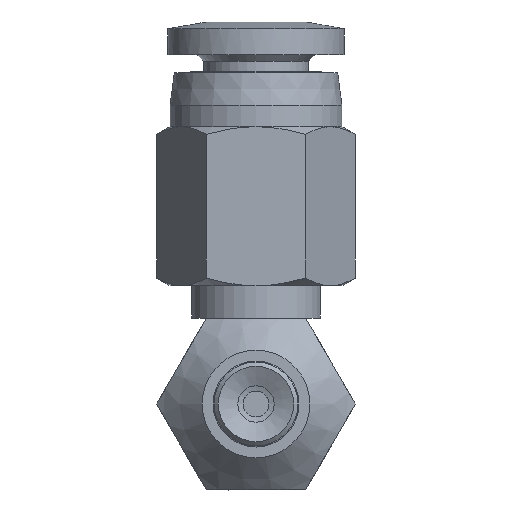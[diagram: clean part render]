
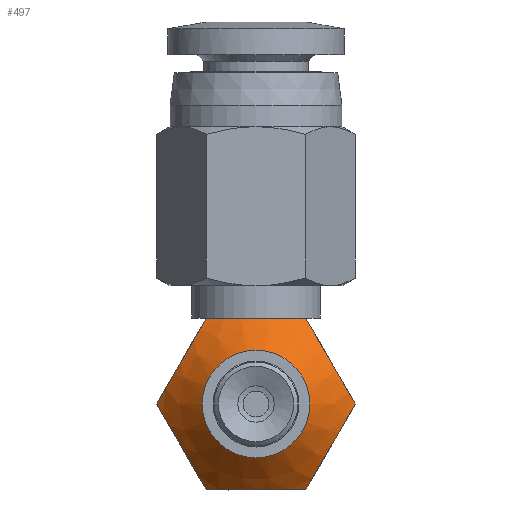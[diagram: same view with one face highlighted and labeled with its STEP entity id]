
A CAD part, front view. The second image highlights one B-rep face of the part: STEP entity #497.
In plain terms, the highlighted conical face has half-angle 45 degrees and reference radius 2.5 mm.
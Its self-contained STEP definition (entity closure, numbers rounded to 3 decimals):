
#497=ADVANCED_FACE('',(#709,#710),#711,.T.);
#709=FACE_BOUND('',#1091,.T.);
#710=FACE_OUTER_BOUND('',#1092,.T.);
#711=CONICAL_SURFACE('',#1093,2.5,0.785);
#1091=EDGE_LOOP('',(#1897));
#1092=EDGE_LOOP('',(#1898,#1899,#1900,#1901,#1902,#1903));
#1093=AXIS2_PLACEMENT_3D('',#1904,#1905,#1906);
#1897=ORIENTED_EDGE('',*,*,#2668,.F.);
#1898=ORIENTED_EDGE('',*,*,#2669,.F.);
#1899=ORIENTED_EDGE('',*,*,#2670,.F.);
#1900=ORIENTED_EDGE('',*,*,#2671,.F.);
#1901=ORIENTED_EDGE('',*,*,#2663,.F.);
#1902=ORIENTED_EDGE('',*,*,#2672,.F.);
#1903=ORIENTED_EDGE('',*,*,#2673,.F.);
#1904=CARTESIAN_POINT('',(0.0,0.,0.0));
#1905=DIRECTION('',(-0.0,1.0,-0.0));
#1906=DIRECTION('',(0.0,0.0,1.0));
#2663=EDGE_CURVE('',#2976,#2977,#2978,.T.);
#2668=EDGE_CURVE('',#2986,#2986,#2987,.T.);
#2669=EDGE_CURVE('',#2988,#2989,#2990,.T.);
#2670=EDGE_CURVE('',#2991,#2988,#2992,.T.);
#2671=EDGE_CURVE('',#2977,#2991,#2993,.T.);
#2672=EDGE_CURVE('',#2994,#2976,#2995,.T.);
#2673=EDGE_CURVE('',#2989,#2994,#2996,.T.);
#2976=VERTEX_POINT('',#3664);
#2977=VERTEX_POINT('',#3665);
#2978=B_SPLINE_CURVE_WITH_KNOTS('',2,(#3666,#3667,#3668,#3669,#3670),.UNSPECIFIED.,.F.,.F.,(3,2,3),(0.0,0.5,1.0),.UNSPECIFIED.);
#2986=VERTEX_POINT('',#3684);
#2987=CIRCLE('',#3685,2.5);
#2988=VERTEX_POINT('',#3686);
#2989=VERTEX_POINT('',#3687);
#2990=B_SPLINE_CURVE_WITH_KNOTS('',2,(#3688,#3689,#3690,#3691,#3692),.UNSPECIFIED.,.F.,.F.,(3,2,3),(0.0,0.5,1.0),.UNSPECIFIED.);
#2991=VERTEX_POINT('',#3693);
#2992=B_SPLINE_CURVE_WITH_KNOTS('',2,(#3694,#3695,#3696,#3697,#3698),.UNSPECIFIED.,.F.,.F.,(3,2,3),(0.0,0.5,1.0),.UNSPECIFIED.);
#2993=B_SPLINE_CURVE_WITH_KNOTS('',2,(#3699,#3700,#3701,#3702,#3703),.UNSPECIFIED.,.F.,.F.,(3,2,3),(0.0,0.5,1.0),.UNSPECIFIED.);
#2994=VERTEX_POINT('',#3704);
#2995=B_SPLINE_CURVE_WITH_KNOTS('',2,(#3705,#3706,#3707,#3708,#3709),.UNSPECIFIED.,.F.,.F.,(3,2,3),(0.0,0.5,1.0),.UNSPECIFIED.);
#2996=B_SPLINE_CURVE_WITH_KNOTS('',2,(#3710,#3711,#3712,#3713,#3714),.UNSPECIFIED.,.F.,.F.,(3,2,3),(0.0,0.5,1.0),.UNSPECIFIED.);
#3664=CARTESIAN_POINT('',(-4.619,2.119,0.));
#3665=CARTESIAN_POINT('',(-2.309,2.119,4.0));
#3666=CARTESIAN_POINT('',(-4.619,2.119,0.));
#3667=CARTESIAN_POINT('',(-4.002,1.502,1.068));
#3668=CARTESIAN_POINT('',(-3.468,1.5,1.993));
#3669=CARTESIAN_POINT('',(-2.93,1.498,2.925));
#3670=CARTESIAN_POINT('',(-2.309,2.119,4.));
#3684=CARTESIAN_POINT('',(0.0,0.,-2.5));
#3685=AXIS2_PLACEMENT_3D('',#4497,#4498,#4499);
#3686=CARTESIAN_POINT('',(4.619,2.119,0.));
#3687=CARTESIAN_POINT('',(2.309,2.119,-4.0));
#3688=CARTESIAN_POINT('',(4.619,2.119,0.));
#3689=CARTESIAN_POINT('',(4.002,1.502,-1.068));
#3690=CARTESIAN_POINT('',(3.468,1.5,-1.993));
#3691=CARTESIAN_POINT('',(2.93,1.498,-2.925));
#3692=CARTESIAN_POINT('',(2.309,2.119,-4.));
#3693=CARTESIAN_POINT('',(2.309,2.119,4.0));
#3694=CARTESIAN_POINT('',(2.309,2.119,4.0));
#3695=CARTESIAN_POINT('',(2.926,1.502,2.932));
#3696=CARTESIAN_POINT('',(3.46,1.5,2.007));
#3697=CARTESIAN_POINT('',(3.998,1.498,1.075));
#3698=CARTESIAN_POINT('',(4.619,2.119,0.));
#3699=CARTESIAN_POINT('',(-2.309,2.119,4.0));
#3700=CARTESIAN_POINT('',(-1.072,1.5,4.0));
#3701=CARTESIAN_POINT('',(-0.001,1.5,4.0));
#3702=CARTESIAN_POINT('',(1.071,1.5,4.0));
#3703=CARTESIAN_POINT('',(2.309,2.119,4.0));
#3704=CARTESIAN_POINT('',(-2.309,2.119,-4.0));
#3705=CARTESIAN_POINT('',(-2.309,2.119,-4.0));
#3706=CARTESIAN_POINT('',(-2.926,1.502,-2.932));
#3707=CARTESIAN_POINT('',(-3.46,1.5,-2.007));
#3708=CARTESIAN_POINT('',(-3.998,1.498,-1.075));
#3709=CARTESIAN_POINT('',(-4.619,2.119,0.));
#3710=CARTESIAN_POINT('',(2.309,2.119,-4.0));
#3711=CARTESIAN_POINT('',(1.072,1.5,-4.0));
#3712=CARTESIAN_POINT('',(0.001,1.5,-4.0));
#3713=CARTESIAN_POINT('',(-1.071,1.5,-4.0));
#3714=CARTESIAN_POINT('',(-2.309,2.119,-4.0));
#4497=CARTESIAN_POINT('',(0.0,0.,0.0));
#4498=DIRECTION('',(0.0,-1.0,0.0));
#4499=DIRECTION('',(0.0,0.0,-1.0));
